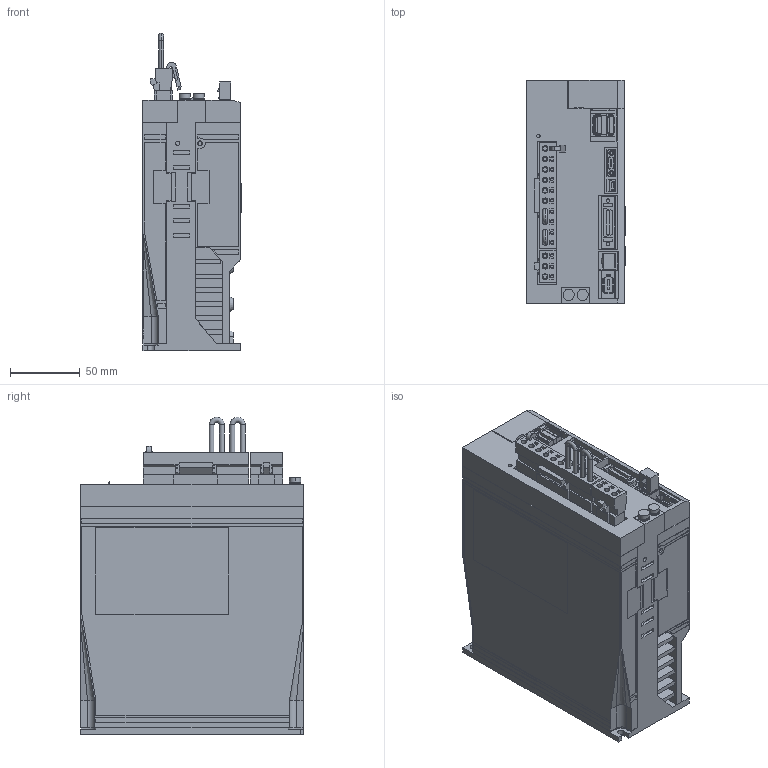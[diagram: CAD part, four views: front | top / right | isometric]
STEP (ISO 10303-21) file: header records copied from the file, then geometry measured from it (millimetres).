
FILE_DESCRIPTION (( 'STEP AP203' ), '1' );
FILE_NAME ('sgdv_3r8a1_a.STEP', '2008-06-17T08:29:47', ( 'T' ), ( 'T' ), 'SwSTEP 2.0', 'SolidWorks 2006052', '' );
FILE_SCHEMA (( 'CONFIG_CONTROL_DESIGN' ));
Products named in the file (10): sgdv_3r8a1_a_cover; sgdv_3r8a1_a_cover2; sgdv_3r8a1_a; sgdv_3r8a1_a_base; sgdv_3r8a1_a_connector; sgdv_3r8a1_a_connector_2; sgdv_3r8a1_a_cable; sgdv_3r8a1_a_pin; sgdv_3r8a1_a_connector_1; sgdv_3r8a1_a_connector_3
Assembly tree (11 placements, depth 3):
  sgdv_3r8a1_a
    sgdv_3r8a1_a_cover
    sgdv_3r8a1_a_connector_1
    sgdv_3r8a1_a_connector
      sgdv_3r8a1_a_cable  x2
      sgdv_3r8a1_a_pin
      sgdv_3r8a1_a_connector_2
    sgdv_3r8a1_a_cover2  x2
    sgdv_3r8a1_a_base
    sgdv_3r8a1_a_connector_3
Bounding box: 70.5 x 160 x 228 mm (x, y, z)
Volume: 1878453.9 mm3; surface area: 165832.4 mm2
Topology: 10 solids, 10 shells, 1944 faces, 5083 edges, 3346 vertices
Faces by surface type: plane 1723, cylinder 203, cone 11, torus 4, bspline 2, sphere 1
Entity records: 58895 total; most frequent: CARTESIAN_POINT 10290, ORIENTED_EDGE 10006, DIRECTION 9260, EDGE_CURVE 5003, LINE 4576, VECTOR 4576, VERTEX_POINT 3294, AXIS2_PLACEMENT_3D 2342
